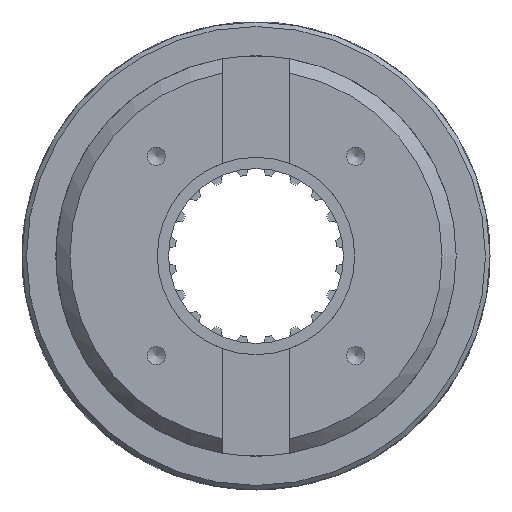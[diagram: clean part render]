
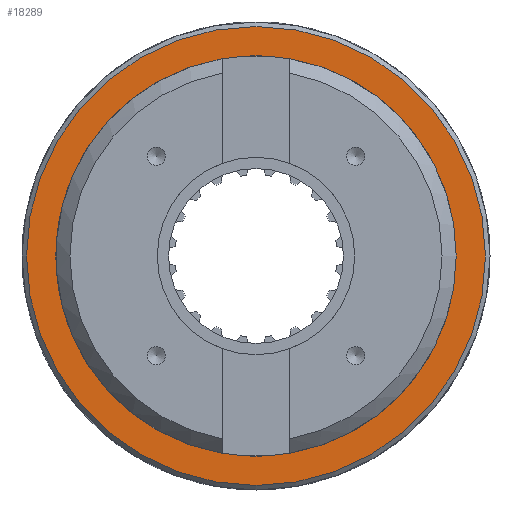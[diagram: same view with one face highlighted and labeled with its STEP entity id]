
A CAD part, left-side view. The second image highlights one B-rep face of the part: STEP entity #18289.
In plain terms, the highlighted planar face has unit normal (-1, 0, 0).
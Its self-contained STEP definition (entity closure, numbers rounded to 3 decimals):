
#307=FACE_BOUND('',#2138,.T.);
#530=PLANE('',#20050);
#1129=FACE_OUTER_BOUND('',#2137,.T.);
#2137=EDGE_LOOP('',(#14047));
#2138=EDGE_LOOP('',(#14048));
#5748=CIRCLE('',#20051,40.7);
#5749=CIRCLE('',#20052,35.5);
#7454=VERTEX_POINT('',#31236);
#7455=VERTEX_POINT('',#31238);
#9784=EDGE_CURVE('',#7454,#7454,#5748,.T.);
#9785=EDGE_CURVE('',#7455,#7455,#5749,.T.);
#14047=ORIENTED_EDGE('',*,*,#9784,.F.);
#14048=ORIENTED_EDGE('',*,*,#9785,.F.);
#18289=ADVANCED_FACE('',(#1129,#307),#530,.T.);
#20050=AXIS2_PLACEMENT_3D('',#31235,#24428,#24429);
#20051=AXIS2_PLACEMENT_3D('',#31237,#24430,#24431);
#20052=AXIS2_PLACEMENT_3D('',#31239,#24432,#24433);
#24428=DIRECTION('center_axis',(-1.,0.,0.));
#24429=DIRECTION('ref_axis',(0.,-1.,0.));
#24430=DIRECTION('center_axis',(1.,0.,0.));
#24431=DIRECTION('ref_axis',(0.,1.,0.));
#24432=DIRECTION('center_axis',(-1.,0.,0.));
#24433=DIRECTION('ref_axis',(0.,1.,0.));
#31235=CARTESIAN_POINT('Origin',(-13.,0.,40.7));
#31236=CARTESIAN_POINT('',(-13.,0.,-40.7));
#31237=CARTESIAN_POINT('Origin',(-13.,0.,0.));
#31238=CARTESIAN_POINT('',(-13.,-35.5,0.));
#31239=CARTESIAN_POINT('Origin',(-13.,0.,0.));
